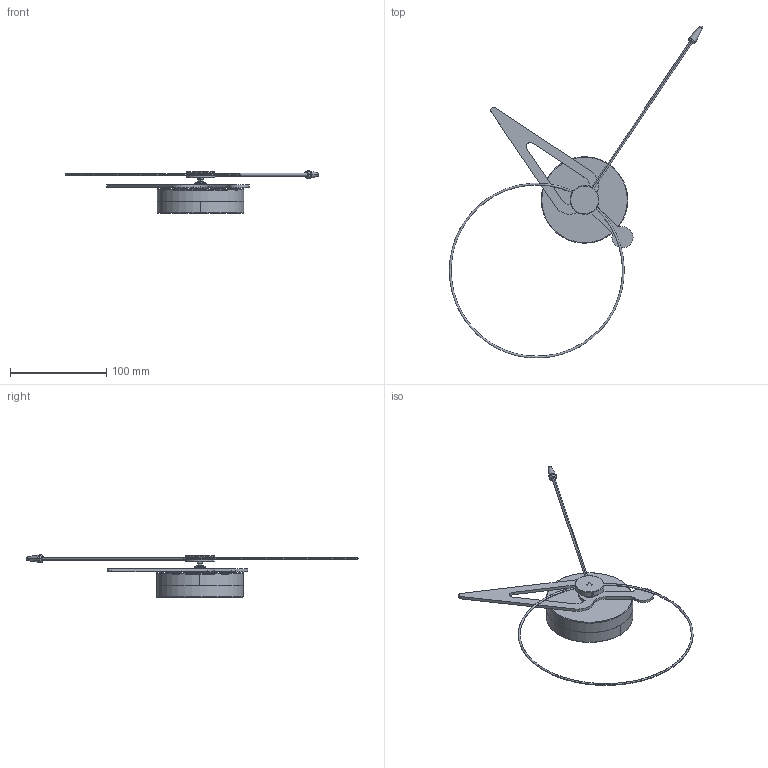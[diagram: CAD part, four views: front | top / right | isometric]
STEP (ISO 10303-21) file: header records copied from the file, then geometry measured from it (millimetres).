
FILE_DESCRIPTION (( 'STEP AP214' ), '1' );
FILE_NAME ('PICO.STEP', '2020-03-02T08:11:31', ( '' ), ( '' ), 'SwSTEP 2.0', 'SolidWorks 2016', '' );
FILE_SCHEMA (( 'AUTOMOTIVE_DESIGN' ));
Length unit declared in the file: millimetre
Products named in the file (16): AGUJA_HORARIA_MICRO_CRIS; Tapa_inferior_caja_OJ; PUNTA_AGUJA_MINUTERA_MICRO_CRIS_OJ; AGUJA_MINUTERA_PICO; MECANISMO_SINGULAR; ARO_FIBRA_Ø2MM_AGUJA_MINUTERA; CANUTO_AGUJA_MINUTERA; FIBRA_Ø3MM_AGUJA_MINUTERA; PICO; Arandela_2; AGUJA_HORARIA_PICO; Tapa_superior_caja_OJ; ENLACE_REDONDO_FIBRAS_AGUJA_MINUTERA; tuerca_7.3_1.5; Arandela_caja_OJ; Inserto horaria
Assembly tree (15 placements, depth 3):
  PICO
    Arandela_caja_OJ
    Tapa_inferior_caja_OJ
    Tapa_superior_caja_OJ
    AGUJA_MINUTERA_PICO
      ENLACE_REDONDO_FIBRAS_AGUJA_MINUTERA
      FIBRA_Ø3MM_AGUJA_MINUTERA
      ARO_FIBRA_Ø2MM_AGUJA_MINUTERA
      CANUTO_AGUJA_MINUTERA
      PUNTA_AGUJA_MINUTERA_MICRO_CRIS_OJ
    MECANISMO_SINGULAR
    AGUJA_HORARIA_PICO
      AGUJA_HORARIA_MICRO_CRIS
      Arandela_2
      Inserto horaria
      tuerca_7.3_1.5
Bounding box: 263.62 x 345.5 x 44.1 mm (x, y, z)
Volume: 84044.8 mm3; surface area: 75517.6 mm2
Topology: 13 solids, 13 shells, 218 faces, 501 edges, 321 vertices
Faces by surface type: cylinder 108, plane 75, torus 22, cone 9, bspline 2, sphere 2
Entity records: 7752 total; most frequent: CARTESIAN_POINT 1990, DIRECTION 1200, ORIENTED_EDGE 990, AXIS2_PLACEMENT_3D 497, EDGE_CURVE 495, VERTEX_POINT 319, CIRCLE 261, EDGE_LOOP 252
